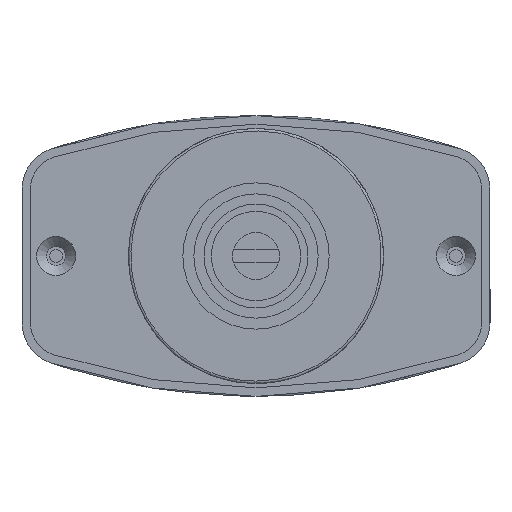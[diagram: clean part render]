
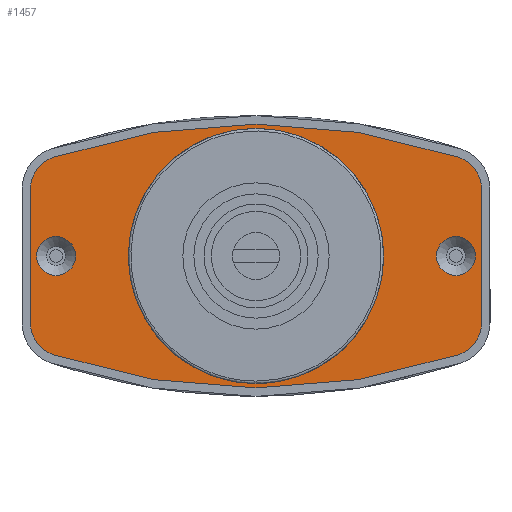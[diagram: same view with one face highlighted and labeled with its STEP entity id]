
A CAD part, front view. The second image highlights one B-rep face of the part: STEP entity #1457.
In plain terms, the highlighted planar face has unit normal (0, -1, 0).
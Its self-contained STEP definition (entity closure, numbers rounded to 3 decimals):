
#85 = VERTEX_POINT ( 'NONE', #11904 ) ;
#130 = DIRECTION ( 'NONE',  ( 0., 1., 0. ) ) ;
#136 = EDGE_LOOP ( 'NONE', ( #1599, #5271, #7348, #13648, #3700, #18260, #3133, #7108 ) ) ;
#179 = DIRECTION ( 'NONE',  ( 1., 0., 0. ) ) ;
#262 = VERTEX_POINT ( 'NONE', #19992 ) ;
#400 = VERTEX_POINT ( 'NONE', #18975 ) ;
#510 = CIRCLE ( 'NONE', #7358, 4. ) ;
#633 = DIRECTION ( 'NONE',  ( 1., 0., 0. ) ) ;
#709 = EDGE_CURVE ( 'NONE', #15553, #85, #11166, .T. ) ;
#941 = DIRECTION ( 'NONE',  ( 1., 0., 0. ) ) ;
#1274 = CARTESIAN_POINT ( 'NONE',  ( 28.741, -42.29, 108.016 ) ) ;
#1320 = DIRECTION ( 'NONE',  ( 1., 0., 0. ) ) ;
#1457 = ADVANCED_FACE ( 'NONE', ( #14594, #1844, #15921, #17442 ), #6748, .T. ) ;
#1514 = CARTESIAN_POINT ( 'NONE',  ( 63.253, -42.29, 90.866 ) ) ;
#1577 = CARTESIAN_POINT ( 'NONE',  ( 36.753, -42.29, 99.766 ) ) ;
#1599 = ORIENTED_EDGE ( 'NONE', *, *, #5438, .T. ) ;
#1844 = FACE_BOUND ( 'NONE', #5379, .T. ) ;
#2503 = EDGE_CURVE ( 'NONE', #262, #11781, #18784, .T. ) ;
#2583 = EDGE_CURVE ( 'NONE', #6303, #400, #18440, .T. ) ;
#2624 = EDGE_CURVE ( 'NONE', #14748, #262, #5964, .T. ) ;
#2683 = VERTEX_POINT ( 'NONE', #1274 ) ;
#2770 = CARTESIAN_POINT ( 'NONE',  ( 60.253, -42.29, 97.466 ) ) ;
#2853 = CARTESIAN_POINT ( 'NONE',  ( 36.753, -42.29, 40.266 ) ) ;
#2867 = VERTEX_POINT ( 'NONE', #2770 ) ;
#3133 = ORIENTED_EDGE ( 'NONE', *, *, #8579, .T. ) ;
#3418 = CARTESIAN_POINT ( 'NONE',  ( 59.253, -42.29, 107.606 ) ) ;
#3423 = ORIENTED_EDGE ( 'NONE', *, *, #16820, .T. ) ;
#3481 = DIRECTION ( 'NONE',  ( 0., 0., -1. ) ) ;
#3655 = CARTESIAN_POINT ( 'NONE',  ( 36.753, -42.29, 99.766 ) ) ;
#3700 = ORIENTED_EDGE ( 'NONE', *, *, #2503, .T. ) ;
#3838 = AXIS2_PLACEMENT_3D ( 'NONE', #14782, #19169, #11694 ) ;
#4146 = VERTEX_POINT ( 'NONE', #18240 ) ;
#4162 = LINE ( 'NONE', #10443, #19287 ) ;
#4211 = EDGE_CURVE ( 'NONE', #17773, #14328, #16921, .T. ) ;
#4330 = AXIS2_PLACEMENT_3D ( 'NONE', #1577, #6068, #15556 ) ;
#4412 = CARTESIAN_POINT ( 'NONE',  ( 63.253, -42.29, 91.925 ) ) ;
#4430 = VECTOR ( 'NONE', #9079, 1000. ) ;
#4762 = CARTESIAN_POINT ( 'NONE',  ( 44.765, -42.29, 108.016 ) ) ;
#5102 = ORIENTED_EDGE ( 'NONE', *, *, #2583, .T. ) ;
#5271 = ORIENTED_EDGE ( 'NONE', *, *, #709, .T. ) ;
#5379 = EDGE_LOOP ( 'NONE', ( #3423, #18934, #10771, #13337, #5102, #11725 ) ) ;
#5392 = CARTESIAN_POINT ( 'NONE',  ( 14.253, -42.29, 107.606 ) ) ;
#5438 = EDGE_CURVE ( 'NONE', #14328, #15553, #19126, .T. ) ;
#5468 = CARTESIAN_POINT ( 'NONE',  ( 14.253, -42.29, 91.925 ) ) ;
#5962 = CARTESIAN_POINT ( 'NONE',  ( 56.153, -42.29, 91.516 ) ) ;
#5964 = LINE ( 'NONE', #12363, #9605 ) ;
#6068 = DIRECTION ( 'NONE',  ( 0., 1., 0. ) ) ;
#6086 = CIRCLE ( 'NONE', #6411, 11.5 ) ;
#6303 = VERTEX_POINT ( 'NONE', #8912 ) ;
#6411 = AXIS2_PLACEMENT_3D ( 'NONE', #3655, #17316, #179 ) ;
#6436 = DIRECTION ( 'NONE',  ( 0., 1., 0. ) ) ;
#6581 = AXIS2_PLACEMENT_3D ( 'NONE', #14791, #8408, #13146 ) ;
#6616 = DIRECTION ( 'NONE',  ( 0., -1., 0. ) ) ;
#6676 = EDGE_CURVE ( 'NONE', #85, #14748, #510, .T. ) ;
#6748 = PLANE ( 'NONE',  #6581 ) ;
#6884 = ORIENTED_EDGE ( 'NONE', *, *, #17658, .T. ) ;
#6979 = VERTEX_POINT ( 'NONE', #4762 ) ;
#7103 = DIRECTION ( 'NONE',  ( 0., -1., 0. ) ) ;
#7108 = ORIENTED_EDGE ( 'NONE', *, *, #4211, .T. ) ;
#7211 = EDGE_CURVE ( 'NONE', #2683, #6979, #9906, .T. ) ;
#7348 = ORIENTED_EDGE ( 'NONE', *, *, #6676, .T. ) ;
#7358 = AXIS2_PLACEMENT_3D ( 'NONE', #5392, #6616, #16388 ) ;
#7507 = AXIS2_PLACEMENT_3D ( 'NONE', #19191, #14706, #16230 ) ;
#7572 = CIRCLE ( 'NONE', #19044, 11.5 ) ;
#8009 = EDGE_CURVE ( 'NONE', #6979, #4146, #6086, .T. ) ;
#8137 = DIRECTION ( 'NONE',  ( 0., -1., 0. ) ) ;
#8216 = AXIS2_PLACEMENT_3D ( 'NONE', #2853, #15394, #1320 ) ;
#8280 = AXIS2_PLACEMENT_3D ( 'NONE', #5468, #7103, #19626 ) ;
#8288 = ORIENTED_EDGE ( 'NONE', *, *, #8415, .T. ) ;
#8390 = EDGE_LOOP ( 'NONE', ( #6884 ) ) ;
#8408 = DIRECTION ( 'NONE',  ( 0., -1., 0. ) ) ;
#8415 = EDGE_CURVE ( 'NONE', #2867, #2867, #18578, .T. ) ;
#8579 = EDGE_CURVE ( 'NONE', #18266, #17773, #15654, .T. ) ;
#8704 = VERTEX_POINT ( 'NONE', #17840 ) ;
#8846 = CARTESIAN_POINT ( 'NONE',  ( 13.253, -42.29, 99.766 ) ) ;
#8912 = CARTESIAN_POINT ( 'NONE',  ( 28.741, -42.29, 91.516 ) ) ;
#9079 = DIRECTION ( 'NONE',  ( 1., 0., 0. ) ) ;
#9283 = VECTOR ( 'NONE', #20187, 1000. ) ;
#9557 = CARTESIAN_POINT ( 'NONE',  ( 60.253, -42.29, 99.766 ) ) ;
#9605 = VECTOR ( 'NONE', #12058, 1000. ) ;
#9746 = AXIS2_PLACEMENT_3D ( 'NONE', #9557, #6436, #3481 ) ;
#9906 = LINE ( 'NONE', #16159, #4430 ) ;
#10028 = CARTESIAN_POINT ( 'NONE',  ( 10.253, -42.29, 107.606 ) ) ;
#10394 = DIRECTION ( 'NONE',  ( 0., 1., 0. ) ) ;
#10412 = CARTESIAN_POINT ( 'NONE',  ( 60.521, -42.29, 111.4 ) ) ;
#10443 = CARTESIAN_POINT ( 'NONE',  ( 25.753, -42.29, 90.866 ) ) ;
#10582 = AXIS2_PLACEMENT_3D ( 'NONE', #8846, #10394, #941 ) ;
#10771 = ORIENTED_EDGE ( 'NONE', *, *, #8009, .T. ) ;
#11166 = CIRCLE ( 'NONE', #8216, 75. ) ;
#11252 = CARTESIAN_POINT ( 'NONE',  ( 60.521, -42.29, 88.131 ) ) ;
#11639 = DIRECTION ( 'NONE',  ( 1., 0., 0. ) ) ;
#11694 = DIRECTION ( 'NONE',  ( 1., 0., 0. ) ) ;
#11725 = ORIENTED_EDGE ( 'NONE', *, *, #12440, .T. ) ;
#11781 = VERTEX_POINT ( 'NONE', #15622 ) ;
#11904 = CARTESIAN_POINT ( 'NONE',  ( 12.986, -42.29, 111.4 ) ) ;
#11942 = AXIS2_PLACEMENT_3D ( 'NONE', #3418, #8137, #11639 ) ;
#12058 = DIRECTION ( 'NONE',  ( 0., 0., -1. ) ) ;
#12363 = CARTESIAN_POINT ( 'NONE',  ( 10.253, -42.29, 90.866 ) ) ;
#12440 = EDGE_CURVE ( 'NONE', #400, #18744, #4162, .T. ) ;
#12782 = CIRCLE ( 'NONE', #7507, 75. ) ;
#13146 = DIRECTION ( 'NONE',  ( 1., 0., 0. ) ) ;
#13337 = ORIENTED_EDGE ( 'NONE', *, *, #18516, .T. ) ;
#13441 = EDGE_LOOP ( 'NONE', ( #8288 ) ) ;
#13530 = DIRECTION ( 'NONE',  ( 0., 0., 1. ) ) ;
#13629 = EDGE_CURVE ( 'NONE', #11781, #18266, #12782, .T. ) ;
#13648 = ORIENTED_EDGE ( 'NONE', *, *, #2624, .T. ) ;
#14208 = CARTESIAN_POINT ( 'NONE',  ( 36.753, -42.29, 99.766 ) ) ;
#14328 = VERTEX_POINT ( 'NONE', #19465 ) ;
#14594 = FACE_OUTER_BOUND ( 'NONE', #136, .T. ) ;
#14706 = DIRECTION ( 'NONE',  ( 0., -1., 0. ) ) ;
#14748 = VERTEX_POINT ( 'NONE', #10028 ) ;
#14782 = CARTESIAN_POINT ( 'NONE',  ( 59.253, -42.29, 91.925 ) ) ;
#14791 = CARTESIAN_POINT ( 'NONE',  ( 56.153, -42.29, 90.866 ) ) ;
#14834 = CIRCLE ( 'NONE', #10582, 2.3 ) ;
#14881 = VECTOR ( 'NONE', #15443, 1000. ) ;
#15394 = DIRECTION ( 'NONE',  ( 0., -1., 0. ) ) ;
#15443 = DIRECTION ( 'NONE',  ( -1., 0., 0. ) ) ;
#15553 = VERTEX_POINT ( 'NONE', #10412 ) ;
#15556 = DIRECTION ( 'NONE',  ( 1., 0., 0. ) ) ;
#15622 = CARTESIAN_POINT ( 'NONE',  ( 12.986, -42.29, 88.131 ) ) ;
#15654 = CIRCLE ( 'NONE', #3838, 4. ) ;
#15921 = FACE_BOUND ( 'NONE', #8390, .T. ) ;
#16159 = CARTESIAN_POINT ( 'NONE',  ( 56.153, -42.29, 108.016 ) ) ;
#16230 = DIRECTION ( 'NONE',  ( 1., 0., 0. ) ) ;
#16388 = DIRECTION ( 'NONE',  ( 1., 0., 0. ) ) ;
#16778 = LINE ( 'NONE', #5962, #14881 ) ;
#16820 = EDGE_CURVE ( 'NONE', #18744, #2683, #7572, .T. ) ;
#16921 = LINE ( 'NONE', #1514, #9283 ) ;
#17316 = DIRECTION ( 'NONE',  ( 0., 1., 0. ) ) ;
#17442 = FACE_BOUND ( 'NONE', #13441, .T. ) ;
#17658 = EDGE_CURVE ( 'NONE', #8704, #8704, #14834, .T. ) ;
#17669 = CARTESIAN_POINT ( 'NONE',  ( 25.753, -42.29, 103.12 ) ) ;
#17773 = VERTEX_POINT ( 'NONE', #4412 ) ;
#17840 = CARTESIAN_POINT ( 'NONE',  ( 15.553, -42.29, 99.766 ) ) ;
#18240 = CARTESIAN_POINT ( 'NONE',  ( 44.765, -42.29, 91.516 ) ) ;
#18260 = ORIENTED_EDGE ( 'NONE', *, *, #13629, .T. ) ;
#18266 = VERTEX_POINT ( 'NONE', #11252 ) ;
#18440 = CIRCLE ( 'NONE', #4330, 11.5 ) ;
#18516 = EDGE_CURVE ( 'NONE', #4146, #6303, #16778, .T. ) ;
#18578 = CIRCLE ( 'NONE', #9746, 2.3 ) ;
#18744 = VERTEX_POINT ( 'NONE', #17669 ) ;
#18784 = CIRCLE ( 'NONE', #8280, 4. ) ;
#18934 = ORIENTED_EDGE ( 'NONE', *, *, #7211, .T. ) ;
#18975 = CARTESIAN_POINT ( 'NONE',  ( 25.753, -42.29, 96.412 ) ) ;
#19044 = AXIS2_PLACEMENT_3D ( 'NONE', #14208, #130, #633 ) ;
#19126 = CIRCLE ( 'NONE', #11942, 4. ) ;
#19169 = DIRECTION ( 'NONE',  ( 0., -1., 0. ) ) ;
#19191 = CARTESIAN_POINT ( 'NONE',  ( 36.753, -42.29, 159.266 ) ) ;
#19287 = VECTOR ( 'NONE', #13530, 1000. ) ;
#19465 = CARTESIAN_POINT ( 'NONE',  ( 63.253, -42.29, 107.606 ) ) ;
#19626 = DIRECTION ( 'NONE',  ( 1., 0., 0. ) ) ;
#19992 = CARTESIAN_POINT ( 'NONE',  ( 10.253, -42.29, 91.925 ) ) ;
#20187 = DIRECTION ( 'NONE',  ( 0., 0., 1. ) ) ;
